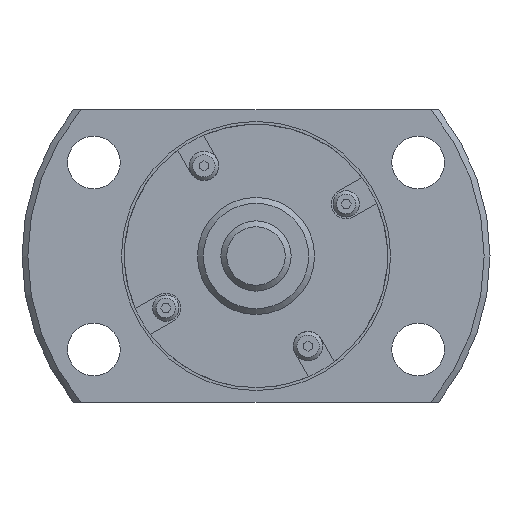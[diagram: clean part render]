
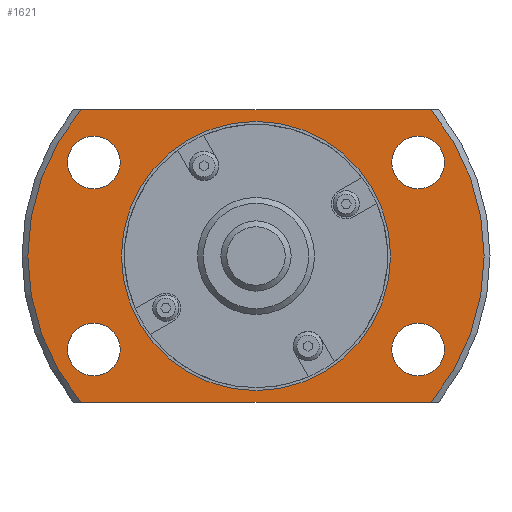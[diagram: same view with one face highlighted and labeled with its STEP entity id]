
A CAD part, left-side view. The second image highlights one B-rep face of the part: STEP entity #1621.
In plain terms, the highlighted planar face has unit normal (-1, 0, 0).
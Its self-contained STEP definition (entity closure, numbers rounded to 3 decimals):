
#108=CIRCLE('',#1776,19.5);
#129=CIRCLE('',#1805,11.25);
#130=CIRCLE('',#1807,2.25);
#131=CIRCLE('',#1808,2.25);
#132=CIRCLE('',#1809,2.25);
#133=CIRCLE('',#1810,2.25);
#134=CIRCLE('',#1811,19.5);
#308=ORIENTED_EDGE('',*,*,#683,.T.);
#309=ORIENTED_EDGE('',*,*,#684,.T.);
#310=ORIENTED_EDGE('',*,*,#685,.T.);
#311=ORIENTED_EDGE('',*,*,#686,.T.);
#312=ORIENTED_EDGE('',*,*,#640,.F.);
#313=ORIENTED_EDGE('',*,*,#687,.T.);
#314=ORIENTED_EDGE('',*,*,#688,.F.);
#315=ORIENTED_EDGE('',*,*,#689,.T.);
#316=ORIENTED_EDGE('',*,*,#682,.T.);
#640=EDGE_CURVE('',#843,#844,#108,.T.);
#682=EDGE_CURVE('',#880,#880,#129,.T.);
#683=EDGE_CURVE('',#881,#881,#130,.T.);
#684=EDGE_CURVE('',#882,#882,#131,.T.);
#685=EDGE_CURVE('',#883,#883,#132,.T.);
#686=EDGE_CURVE('',#884,#884,#133,.T.);
#687=EDGE_CURVE('',#843,#885,#992,.T.);
#688=EDGE_CURVE('',#886,#885,#134,.T.);
#689=EDGE_CURVE('',#886,#844,#993,.T.);
#843=VERTEX_POINT('',#2561);
#844=VERTEX_POINT('',#2563);
#880=VERTEX_POINT('',#2658);
#881=VERTEX_POINT('',#2661);
#882=VERTEX_POINT('',#2663);
#883=VERTEX_POINT('',#2665);
#884=VERTEX_POINT('',#2667);
#885=VERTEX_POINT('',#2669);
#886=VERTEX_POINT('',#2671);
#992=LINE('',#2668,#1114);
#993=LINE('',#2672,#1115);
#1114=VECTOR('',#2149,1000.);
#1115=VECTOR('',#2152,1000.);
#1251=EDGE_LOOP('',(#308));
#1252=EDGE_LOOP('',(#309));
#1253=EDGE_LOOP('',(#310));
#1254=EDGE_LOOP('',(#311));
#1255=EDGE_LOOP('',(#312,#313,#314,#315));
#1256=EDGE_LOOP('',(#316));
#1417=FACE_BOUND('',#1251,.T.);
#1418=FACE_BOUND('',#1252,.T.);
#1419=FACE_BOUND('',#1253,.T.);
#1420=FACE_BOUND('',#1254,.T.);
#1421=FACE_BOUND('',#1255,.T.);
#1422=FACE_BOUND('',#1256,.T.);
#1536=PLANE('',#1806);
#1621=ADVANCED_FACE('',(#1417,#1418,#1419,#1420,#1421,#1422),#1536,.F.);
#1776=AXIS2_PLACEMENT_3D('',#2562,#2061,#2062);
#1805=AXIS2_PLACEMENT_3D('',#2657,#2137,#2138);
#1806=AXIS2_PLACEMENT_3D('',#2659,#2139,#2140);
#1807=AXIS2_PLACEMENT_3D('',#2660,#2141,#2142);
#1808=AXIS2_PLACEMENT_3D('',#2662,#2143,#2144);
#1809=AXIS2_PLACEMENT_3D('',#2664,#2145,#2146);
#1810=AXIS2_PLACEMENT_3D('',#2666,#2147,#2148);
#1811=AXIS2_PLACEMENT_3D('',#2670,#2150,#2151);
#2061=DIRECTION('',(1.,0.,0.));
#2062=DIRECTION('',(0.,0.,-1.));
#2137=DIRECTION('',(1.,0.,0.));
#2138=DIRECTION('',(0.,0.,-1.));
#2139=DIRECTION('',(1.,0.,0.));
#2140=DIRECTION('',(0.,0.,-1.));
#2141=DIRECTION('',(1.,0.,0.));
#2142=DIRECTION('',(0.,0.,-1.));
#2143=DIRECTION('',(1.,0.,0.));
#2144=DIRECTION('',(0.,0.,-1.));
#2145=DIRECTION('',(1.,0.,0.));
#2146=DIRECTION('',(0.,0.,-1.));
#2147=DIRECTION('',(1.,0.,0.));
#2148=DIRECTION('',(0.,0.,-1.));
#2149=DIRECTION('',(0.,-1.,0.));
#2150=DIRECTION('',(1.,0.,0.));
#2151=DIRECTION('',(0.,0.,-1.));
#2152=DIRECTION('',(0.,1.,0.));
#2561=CARTESIAN_POINT('',(13.,14.967,-12.5));
#2562=CARTESIAN_POINT('',(13.,0.,0.));
#2563=CARTESIAN_POINT('',(13.,14.967,12.5));
#2657=CARTESIAN_POINT('',(13.,0.,0.));
#2658=CARTESIAN_POINT('',(13.,0.,-11.25));
#2659=CARTESIAN_POINT('',(13.,11.25,0.));
#2660=CARTESIAN_POINT('',(13.,-13.856,-8.));
#2661=CARTESIAN_POINT('',(13.,-13.856,-10.25));
#2662=CARTESIAN_POINT('',(13.,-13.856,8.));
#2663=CARTESIAN_POINT('',(13.,-13.856,5.75));
#2664=CARTESIAN_POINT('',(13.,13.856,-8.));
#2665=CARTESIAN_POINT('',(13.,13.856,-10.25));
#2666=CARTESIAN_POINT('',(13.,13.856,8.));
#2667=CARTESIAN_POINT('',(13.,13.856,5.75));
#2668=CARTESIAN_POINT('',(13.,11.25,-12.5));
#2669=CARTESIAN_POINT('',(13.,-14.967,-12.5));
#2670=CARTESIAN_POINT('',(13.,0.,0.));
#2671=CARTESIAN_POINT('',(13.,-14.967,12.5));
#2672=CARTESIAN_POINT('',(13.,11.25,12.5));
